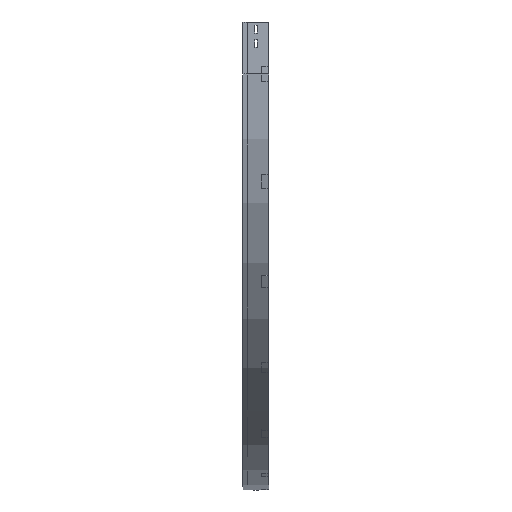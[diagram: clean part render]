
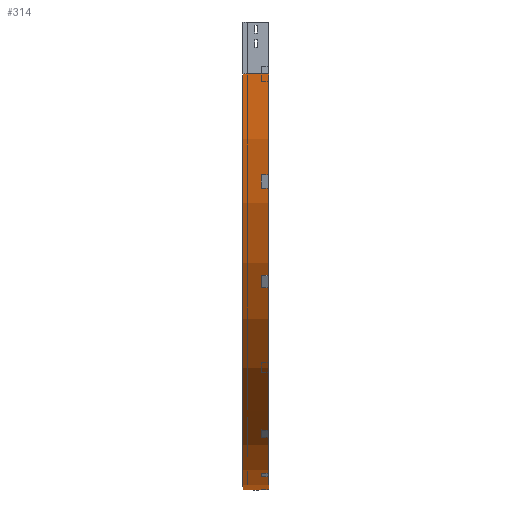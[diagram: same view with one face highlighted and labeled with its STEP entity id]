
A CAD part, left-side view. The second image highlights one B-rep face of the part: STEP entity #314.
In plain terms, the highlighted cylindrical face has radius 1200 mm (diameter 2400 mm), a partial arc.
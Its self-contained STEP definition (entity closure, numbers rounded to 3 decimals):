
#156 = DIRECTION ( 'NONE',  ( -1., 0., 0. ) ) ;
#314 = ADVANCED_FACE ( 'NONE', ( #3831 ), #1435, .T. ) ;
#320 = AXIS2_PLACEMENT_3D ( 'NONE', #586, #2065, #3532 ) ;
#356 = ORIENTED_EDGE ( 'NONE', *, *, #3057, .T. ) ;
#467 = CARTESIAN_POINT ( 'NONE',  ( 0., 75., -150. ) ) ;
#537 = DIRECTION ( 'NONE',  ( 0., -1., 0. ) ) ;
#586 = CARTESIAN_POINT ( 'NONE',  ( 1200., 75., -150. ) ) ;
#694 = AXIS2_PLACEMENT_3D ( 'NONE', #1941, #1921, #156 ) ;
#822 = CIRCLE ( 'NONE', #694, 1200. ) ;
#860 = CARTESIAN_POINT ( 'NONE',  ( 0., 0., -150. ) ) ;
#1028 = LINE ( 'NONE', #860, #3866 ) ;
#1029 = AXIS2_PLACEMENT_3D ( 'NONE', #1152, #537, #2285 ) ;
#1119 = CARTESIAN_POINT ( 'NONE',  ( 0., 0., -150. ) ) ;
#1152 = CARTESIAN_POINT ( 'NONE',  ( 1200., 0., -150. ) ) ;
#1435 = CYLINDRICAL_SURFACE ( 'NONE', #1029, 1200. ) ;
#1466 = CARTESIAN_POINT ( 'NONE',  ( 1200., 0., -1350. ) ) ;
#1595 = CIRCLE ( 'NONE', #320, 1200. ) ;
#1739 = DIRECTION ( 'NONE',  ( 0., -1., 0. ) ) ;
#1764 = EDGE_CURVE ( 'NONE', #2102, #3652, #822, .T. ) ;
#1845 = ORIENTED_EDGE ( 'NONE', *, *, #1764, .F. ) ;
#1921 = DIRECTION ( 'NONE',  ( 0., -1., 0. ) ) ;
#1941 = CARTESIAN_POINT ( 'NONE',  ( 1200., 0., -150. ) ) ;
#2016 = LINE ( 'NONE', #3244, #2538 ) ;
#2065 = DIRECTION ( 'NONE',  ( 0., -1., 0. ) ) ;
#2102 = VERTEX_POINT ( 'NONE', #1119 ) ;
#2142 = VERTEX_POINT ( 'NONE', #467 ) ;
#2285 = DIRECTION ( 'NONE',  ( 0., 0., -1. ) ) ;
#2438 = ORIENTED_EDGE ( 'NONE', *, *, #3454, .F. ) ;
#2468 = EDGE_CURVE ( 'NONE', #2142, #3621, #1595, .T. ) ;
#2538 = VECTOR ( 'NONE', #1739, 1000. ) ;
#2637 = DIRECTION ( 'NONE',  ( 0., -1., 0. ) ) ;
#2890 = ORIENTED_EDGE ( 'NONE', *, *, #2468, .T. ) ;
#3057 = EDGE_CURVE ( 'NONE', #3621, #3652, #2016, .T. ) ;
#3244 = CARTESIAN_POINT ( 'NONE',  ( 1200., 0., -1350. ) ) ;
#3454 = EDGE_CURVE ( 'NONE', #2142, #2102, #1028, .T. ) ;
#3520 = EDGE_LOOP ( 'NONE', ( #1845, #2438, #2890, #356 ) ) ;
#3532 = DIRECTION ( 'NONE',  ( -1., 0., 0. ) ) ;
#3621 = VERTEX_POINT ( 'NONE', #3842 ) ;
#3652 = VERTEX_POINT ( 'NONE', #1466 ) ;
#3831 = FACE_OUTER_BOUND ( 'NONE', #3520, .T. ) ;
#3842 = CARTESIAN_POINT ( 'NONE',  ( 1200., 75., -1350. ) ) ;
#3866 = VECTOR ( 'NONE', #2637, 1000. ) ;
